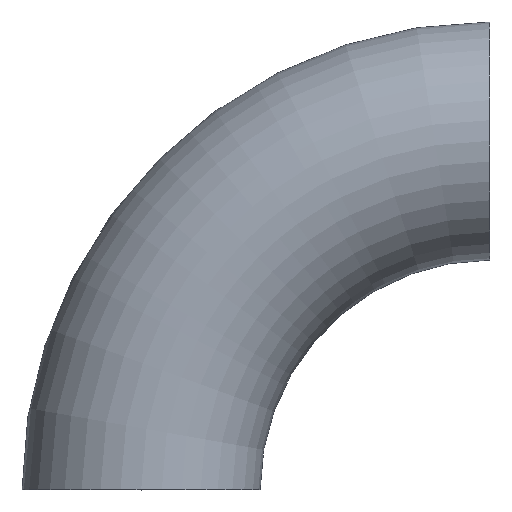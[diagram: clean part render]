
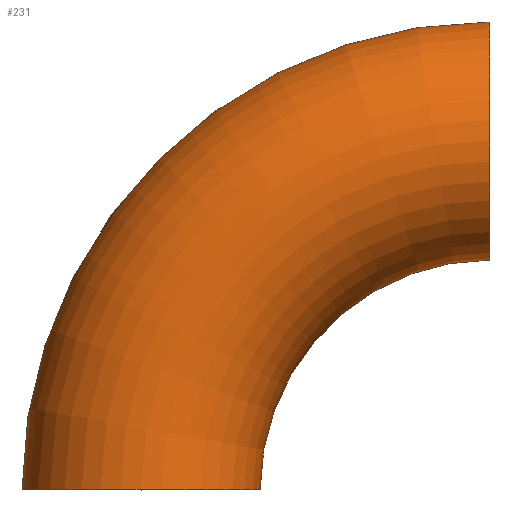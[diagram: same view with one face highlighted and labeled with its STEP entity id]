
A CAD part, top view. The second image highlights one B-rep face of the part: STEP entity #231.
In plain terms, the highlighted toroidal (fillet/blend) face has major radius 375 mm and minor radius 128 mm.
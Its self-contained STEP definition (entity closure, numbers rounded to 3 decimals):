
#7 = VERTEX_POINT ( 'NONE', #48 ) ;
#16 = CARTESIAN_POINT ( 'NONE',  ( -128., 0., 0. ) ) ;
#34 = CARTESIAN_POINT ( 'NONE',  ( 375., 375., 0. ) ) ;
#36 = CARTESIAN_POINT ( 'NONE',  ( 375., 0., 0. ) ) ;
#37 = EDGE_LOOP ( 'NONE', ( #157, #68, #180, #123 ) ) ;
#48 = CARTESIAN_POINT ( 'NONE',  ( 375., 503., 0. ) ) ;
#52 = DIRECTION ( 'NONE',  ( 0., 0., 1. ) ) ;
#54 = DIRECTION ( 'NONE',  ( 0., 0., 1. ) ) ;
#68 = ORIENTED_EDGE ( 'NONE', *, *, #176, .T. ) ;
#84 = EDGE_CURVE ( 'NONE', #179, #114, #101, .T. ) ;
#89 = VERTEX_POINT ( 'NONE', #164 ) ;
#96 = DIRECTION ( 'NONE',  ( 1., 0., 0. ) ) ;
#101 = CIRCLE ( 'NONE', #181, 128. ) ;
#114 = VERTEX_POINT ( 'NONE', #153 ) ;
#115 = CARTESIAN_POINT ( 'NONE',  ( 375., 0., 0. ) ) ;
#119 = EDGE_CURVE ( 'NONE', #89, #114, #175, .T. ) ;
#123 = ORIENTED_EDGE ( 'NONE', *, *, #119, .F. ) ;
#135 = EDGE_CURVE ( 'NONE', #7, #89, #160, .T. ) ;
#146 = AXIS2_PLACEMENT_3D ( 'NONE', #250, #52, #96 ) ;
#150 = FACE_OUTER_BOUND ( 'NONE', #37, .T. ) ;
#151 = DIRECTION ( 'NONE',  ( 1., 0., 0. ) ) ;
#153 = CARTESIAN_POINT ( 'NONE',  ( 128., 0., 0. ) ) ;
#157 = ORIENTED_EDGE ( 'NONE', *, *, #135, .F. ) ;
#160 = CIRCLE ( 'NONE', #251, 128. ) ;
#162 = TOROIDAL_SURFACE ( 'NONE', #206, 375., 128. ) ;
#164 = CARTESIAN_POINT ( 'NONE',  ( 375., 247., 0. ) ) ;
#175 = CIRCLE ( 'NONE', #146, 247. ) ;
#176 = EDGE_CURVE ( 'NONE', #7, #179, #204, .T. ) ;
#179 = VERTEX_POINT ( 'NONE', #16 ) ;
#180 = ORIENTED_EDGE ( 'NONE', *, *, #84, .T. ) ;
#181 = AXIS2_PLACEMENT_3D ( 'NONE', #189, #190, #253 ) ;
#185 = AXIS2_PLACEMENT_3D ( 'NONE', #36, #54, #212 ) ;
#187 = DIRECTION ( 'NONE',  ( 0., 0., 1. ) ) ;
#188 = DIRECTION ( 'NONE',  ( 1., 0., 0. ) ) ;
#189 = CARTESIAN_POINT ( 'NONE',  ( 0., 0., 0. ) ) ;
#190 = DIRECTION ( 'NONE',  ( 0., 1., 0. ) ) ;
#204 = CIRCLE ( 'NONE', #185, 503. ) ;
#206 = AXIS2_PLACEMENT_3D ( 'NONE', #115, #228, #151 ) ;
#212 = DIRECTION ( 'NONE',  ( 1., 0., 0. ) ) ;
#228 = DIRECTION ( 'NONE',  ( 0., 0., 1. ) ) ;
#231 = ADVANCED_FACE ( 'NONE', ( #150 ), #162, .T. ) ;
#250 = CARTESIAN_POINT ( 'NONE',  ( 375., 0., 0. ) ) ;
#251 = AXIS2_PLACEMENT_3D ( 'NONE', #34, #188, #187 ) ;
#253 = DIRECTION ( 'NONE',  ( 0., 0., 1. ) ) ;
